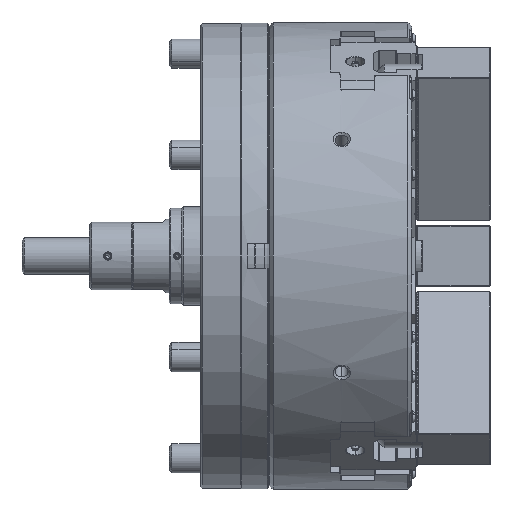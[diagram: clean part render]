
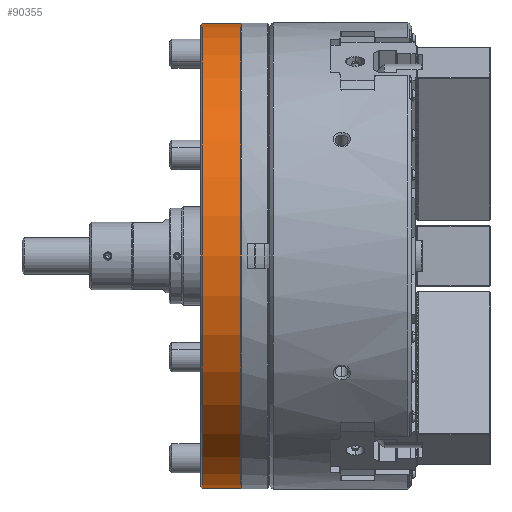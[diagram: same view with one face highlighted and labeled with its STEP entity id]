
A CAD part, front view. The second image highlights one B-rep face of the part: STEP entity #90355.
In plain terms, the highlighted cylindrical face has radius 189.5 mm (diameter 379 mm), a partial arc.
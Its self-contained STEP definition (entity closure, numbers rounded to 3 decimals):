
#6635 = ORIENTED_EDGE ( 'NONE', *, *, #119620, .F. ) ;
#11230 = EDGE_CURVE ( 'NONE', #156238, #56724, #66374, .T. ) ;
#13706 = AXIS2_PLACEMENT_3D ( 'NONE', #72672, #153268, #45214 ) ;
#40916 = AXIS2_PLACEMENT_3D ( 'NONE', #174718, #41779, #66634 ) ;
#41779 = DIRECTION ( 'NONE',  ( -1., 0., 0. ) ) ;
#43262 = LINE ( 'NONE', #109765, #74580 ) ;
#43411 = ORIENTED_EDGE ( 'NONE', *, *, #157774, .T. ) ;
#45214 = DIRECTION ( 'NONE',  ( 0., 0., 1. ) ) ;
#51556 = CARTESIAN_POINT ( 'NONE',  ( -171., 0., 189.5 ) ) ;
#56724 = VERTEX_POINT ( 'NONE', #101201 ) ;
#66374 = CIRCLE ( 'NONE', #40916, 189.5 ) ;
#66634 = DIRECTION ( 'NONE',  ( 0., 0., 1. ) ) ;
#68340 = CARTESIAN_POINT ( 'NONE',  ( -171., 0., 0. ) ) ;
#69230 = AXIS2_PLACEMENT_3D ( 'NONE', #68340, #110830, #149817 ) ;
#72672 = CARTESIAN_POINT ( 'NONE',  ( -378.898, 0., 0. ) ) ;
#74580 = VECTOR ( 'NONE', #163795, 1000. ) ;
#75546 = LINE ( 'NONE', #116280, #135079 ) ;
#83375 = FACE_OUTER_BOUND ( 'NONE', #138634, .T. ) ;
#90355 = ADVANCED_FACE ( 'NONE', ( #83375 ), #123212, .T. ) ;
#90606 = DIRECTION ( 'NONE',  ( -1., 0., 0. ) ) ;
#92468 = VERTEX_POINT ( 'NONE', #156096 ) ;
#101201 = CARTESIAN_POINT ( 'NONE',  ( -139.5, 0., 189.5 ) ) ;
#107931 = ORIENTED_EDGE ( 'NONE', *, *, #11230, .T. ) ;
#108950 = CIRCLE ( 'NONE', #69230, 189.5 ) ;
#109765 = CARTESIAN_POINT ( 'NONE',  ( -378.898, 0., 189.5 ) ) ;
#110830 = DIRECTION ( 'NONE',  ( -1., 0., 0. ) ) ;
#116280 = CARTESIAN_POINT ( 'NONE',  ( -378.898, 0., -189.5 ) ) ;
#119620 = EDGE_CURVE ( 'NONE', #92468, #146231, #108950, .T. ) ;
#123212 = CYLINDRICAL_SURFACE ( 'NONE', #13706, 189.5 ) ;
#124079 = CARTESIAN_POINT ( 'NONE',  ( -139.5, 0., -189.5 ) ) ;
#135079 = VECTOR ( 'NONE', #90606, 1000. ) ;
#138634 = EDGE_LOOP ( 'NONE', ( #163498, #107931, #43411, #6635 ) ) ;
#146231 = VERTEX_POINT ( 'NONE', #51556 ) ;
#149612 = EDGE_CURVE ( 'NONE', #156238, #92468, #75546, .T. ) ;
#149817 = DIRECTION ( 'NONE',  ( 0., 0., 1. ) ) ;
#153268 = DIRECTION ( 'NONE',  ( -1., 0., 0. ) ) ;
#156096 = CARTESIAN_POINT ( 'NONE',  ( -171., 0., -189.5 ) ) ;
#156238 = VERTEX_POINT ( 'NONE', #124079 ) ;
#157774 = EDGE_CURVE ( 'NONE', #56724, #146231, #43262, .T. ) ;
#163498 = ORIENTED_EDGE ( 'NONE', *, *, #149612, .F. ) ;
#163795 = DIRECTION ( 'NONE',  ( -1., 0., 0. ) ) ;
#174718 = CARTESIAN_POINT ( 'NONE',  ( -139.5, 0., 0. ) ) ;
